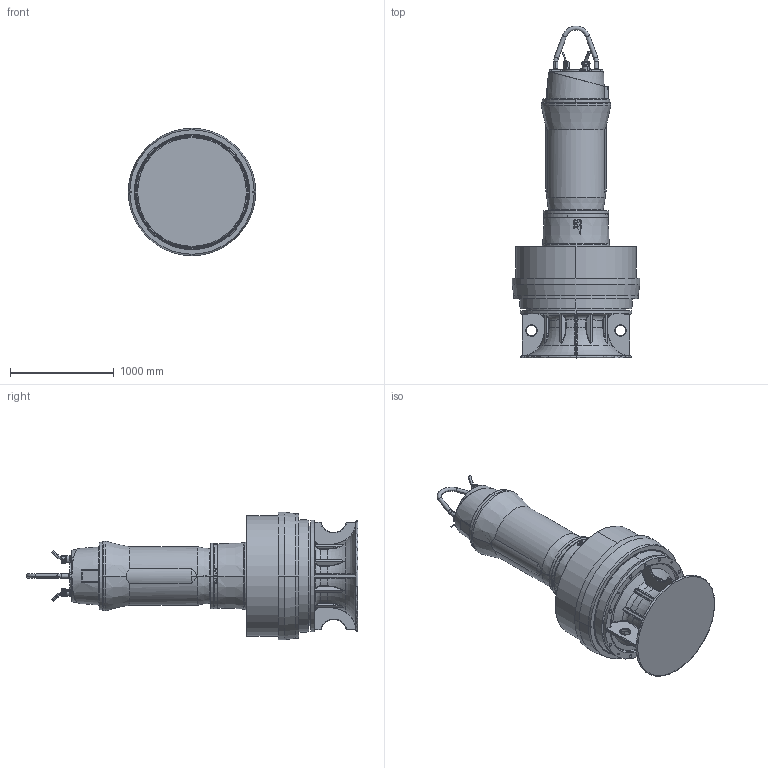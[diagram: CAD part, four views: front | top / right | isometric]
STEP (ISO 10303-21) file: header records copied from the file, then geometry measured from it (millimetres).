
FILE_DESCRIPTION (( 'STEP AP214' ), '1' );
FILE_NAME ('PE6_AFLX12107G3_STD_B_NG2.STEP', '2017-04-25T11:22:38', ( '' ), ( '' ), 'SwSTEP 2.0', 'SolidWorks 2017', '' );
FILE_SCHEMA (( 'AUTOMOTIVE_DESIGN' ));
Length unit declared in the file: millimetre
Products named in the file (1): PE6_AFLX12107G3_STD_B_NG2
Bounding box: 1230 x 3202.1 x 1230 mm (x, y, z)
Volume: 1297730693.6 mm3; surface area: 12500490.2 mm2
Topology: 3 solids, 21 shells, 2220 faces, 5355 edges, 3110 vertices
Faces by surface type: cylinder 582, plane 581, bspline 493, cone 257, torus 230, sphere 77
Entity records: 118007 total; most frequent: CARTESIAN_POINT 45954, ORIENTED_EDGE 10414, DIRECTION 9249, EDGE_CURVE 5207, AXIS2_PLACEMENT_3D 3676, VERTEX_POINT 3109, EDGE_LOOP 2386, UNCERTAINTY_MEASURE_WITH_UNIT 2225
